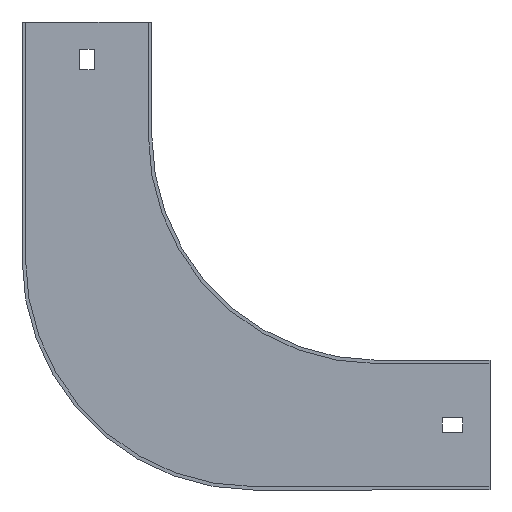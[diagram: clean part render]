
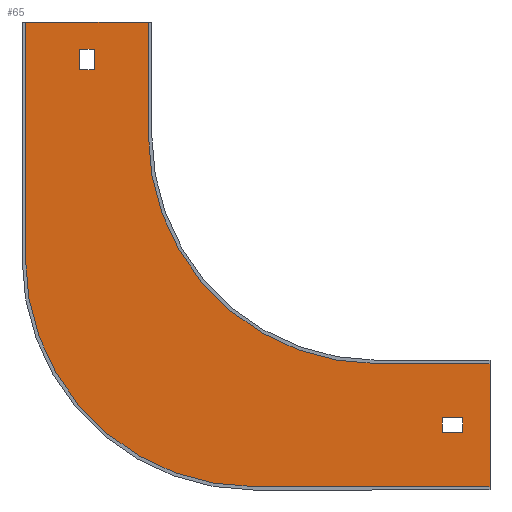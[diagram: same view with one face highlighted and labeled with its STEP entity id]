
A CAD part, front view. The second image highlights one B-rep face of the part: STEP entity #65.
In plain terms, the highlighted planar face has unit normal (0, -1, 0).
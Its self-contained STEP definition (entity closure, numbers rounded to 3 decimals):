
#29 = EDGE_CURVE ( 'NONE', #698, #639, #371, .T. ) ;
#32 = LINE ( 'NONE', #418, #144 ) ;
#33 = VECTOR ( 'NONE', #627, 1000. ) ;
#35 = VECTOR ( 'NONE', #438, 1000. ) ;
#37 = DIRECTION ( 'NONE',  ( 0., 0., 1. ) ) ;
#38 = EDGE_CURVE ( 'NONE', #534, #661, #634, .T. ) ;
#44 = EDGE_LOOP ( 'NONE', ( #72, #859, #710, #341 ) ) ;
#51 = DIRECTION ( 'NONE',  ( 0., 0., 1. ) ) ;
#53 = CIRCLE ( 'NONE', #122, 100. ) ;
#65 = ADVANCED_FACE ( 'NONE', ( #83, #134, #290 ), #668, .T. ) ;
#67 = DIRECTION ( 'NONE',  ( 0., 0., -1. ) ) ;
#68 = VECTOR ( 'NONE', #622, 1000. ) ;
#69 = DIRECTION ( 'NONE',  ( -1., 0., 0. ) ) ;
#72 = ORIENTED_EDGE ( 'NONE', *, *, #580, .F. ) ;
#81 = ORIENTED_EDGE ( 'NONE', *, *, #464, .F. ) ;
#83 = FACE_BOUND ( 'NONE', #44, .T. ) ;
#84 = CARTESIAN_POINT ( 'NONE',  ( 29., -1.5, -130.25 ) ) ;
#88 = CARTESIAN_POINT ( 'NONE',  ( 50., -1.5, -98.5 ) ) ;
#89 = EDGE_CURVE ( 'NONE', #681, #690, #537, .T. ) ;
#94 = ORIENTED_EDGE ( 'NONE', *, *, #398, .F. ) ;
#95 = LINE ( 'NONE', #817, #529 ) ;
#115 = EDGE_CURVE ( 'NONE', #696, #797, #742, .T. ) ;
#122 = AXIS2_PLACEMENT_3D ( 'NONE', #422, #231, #751 ) ;
#123 = CARTESIAN_POINT ( 'NONE',  ( 29., -1.5, 0. ) ) ;
#128 = EDGE_CURVE ( 'NONE', #623, #138, #629, .T. ) ;
#134 = FACE_OUTER_BOUND ( 'NONE', #151, .T. ) ;
#138 = VERTEX_POINT ( 'NONE', #329 ) ;
#139 = VERTEX_POINT ( 'NONE', #789 ) ;
#141 = CARTESIAN_POINT ( 'NONE',  ( 0., -1.5, 0. ) ) ;
#143 = CARTESIAN_POINT ( 'NONE',  ( 0., -1.5, 29. ) ) ;
#144 = VECTOR ( 'NONE', #554, 1000. ) ;
#151 = EDGE_LOOP ( 'NONE', ( #630, #94, #297, #368, #267, #81, #535, #470 ) ) ;
#175 = CARTESIAN_POINT ( 'NONE',  ( 50., -1.5, -154. ) ) ;
#182 = LINE ( 'NONE', #714, #35 ) ;
#186 = CARTESIAN_POINT ( 'NONE',  ( -154., -1.5, -54. ) ) ;
#190 = DIRECTION ( 'NONE',  ( -1., 0., 0. ) ) ;
#192 = DIRECTION ( 'NONE',  ( 0., 0., 1. ) ) ;
#217 = VECTOR ( 'NONE', #219, 1000. ) ;
#219 = DIRECTION ( 'NONE',  ( 0., 0., -1. ) ) ;
#231 = DIRECTION ( 'NONE',  ( 0., 1., 0. ) ) ;
#234 = VERTEX_POINT ( 'NONE', #743 ) ;
#251 = EDGE_CURVE ( 'NONE', #809, #534, #718, .T. ) ;
#262 = CARTESIAN_POINT ( 'NONE',  ( 50., -1.5, -154. ) ) ;
#267 = ORIENTED_EDGE ( 'NONE', *, *, #89, .F. ) ;
#277 = DIRECTION ( 'NONE',  ( 0., -1., 0. ) ) ;
#286 = CARTESIAN_POINT ( 'NONE',  ( 0., -1.5, 38. ) ) ;
#290 = FACE_BOUND ( 'NONE', #738, .T. ) ;
#297 = ORIENTED_EDGE ( 'NONE', *, *, #501, .F. ) ;
#329 = CARTESIAN_POINT ( 'NONE',  ( -123.75, -1.5, 29. ) ) ;
#331 = CARTESIAN_POINT ( 'NONE',  ( 0., -1.5, 0. ) ) ;
#341 = ORIENTED_EDGE ( 'NONE', *, *, #251, .F. ) ;
#347 = CARTESIAN_POINT ( 'NONE',  ( -123.75, -1.5, 0. ) ) ;
#358 = DIRECTION ( 'NONE',  ( 0., 0., -1. ) ) ;
#368 = ORIENTED_EDGE ( 'NONE', *, *, #776, .F. ) ;
#371 = LINE ( 'NONE', #432, #782 ) ;
#372 = ORIENTED_EDGE ( 'NONE', *, *, #128, .T. ) ;
#380 = CARTESIAN_POINT ( 'NONE',  ( 50., -1.5, -100. ) ) ;
#381 = AXIS2_PLACEMENT_3D ( 'NONE', #141, #277, #358 ) ;
#390 = DIRECTION ( 'NONE',  ( 0., 0., -1. ) ) ;
#398 = EDGE_CURVE ( 'NONE', #733, #696, #719, .T. ) ;
#412 = EDGE_CURVE ( 'NONE', #138, #698, #478, .T. ) ;
#418 = CARTESIAN_POINT ( 'NONE',  ( 0., -1.5, -100. ) ) ;
#422 = CARTESIAN_POINT ( 'NONE',  ( -54., -1.5, -54. ) ) ;
#423 = VECTOR ( 'NONE', #190, 1000. ) ;
#432 = CARTESIAN_POINT ( 'NONE',  ( -130.25, -1.5, 0. ) ) ;
#438 = DIRECTION ( 'NONE',  ( 0., 0., -1. ) ) ;
#445 = EDGE_CURVE ( 'NONE', #639, #623, #524, .T. ) ;
#460 = LINE ( 'NONE', #262, #423 ) ;
#464 = EDGE_CURVE ( 'NONE', #139, #681, #32, .T. ) ;
#470 = ORIENTED_EDGE ( 'NONE', *, *, #691, .F. ) ;
#473 = VECTOR ( 'NONE', #390, 1000. ) ;
#478 = LINE ( 'NONE', #143, #740 ) ;
#482 = CARTESIAN_POINT ( 'NONE',  ( 0., -1.5, -130.25 ) ) ;
#490 = DIRECTION ( 'NONE',  ( -1., 0., 0. ) ) ;
#491 = ORIENTED_EDGE ( 'NONE', *, *, #29, .T. ) ;
#501 = EDGE_CURVE ( 'NONE', #234, #733, #53, .T. ) ;
#516 = VECTOR ( 'NONE', #590, 1000. ) ;
#524 = LINE ( 'NONE', #286, #516 ) ;
#526 = VECTOR ( 'NONE', #617, 1000. ) ;
#529 = VECTOR ( 'NONE', #490, 1000. ) ;
#530 = DIRECTION ( 'NONE',  ( 0., -1., 0. ) ) ;
#534 = VERTEX_POINT ( 'NONE', #84 ) ;
#535 = ORIENTED_EDGE ( 'NONE', *, *, #828, .F. ) ;
#537 = LINE ( 'NONE', #88, #526 ) ;
#554 = DIRECTION ( 'NONE',  ( 1., 0., 0. ) ) ;
#556 = VERTEX_POINT ( 'NONE', #571 ) ;
#571 = CARTESIAN_POINT ( 'NONE',  ( -100., -1.5, 0. ) ) ;
#572 = CIRCLE ( 'NONE', #848, 100. ) ;
#580 = EDGE_CURVE ( 'NONE', #822, #809, #95, .T. ) ;
#583 = CARTESIAN_POINT ( 'NONE',  ( -130.25, -1.5, 29. ) ) ;
#590 = DIRECTION ( 'NONE',  ( 1., 0., 0. ) ) ;
#600 = VECTOR ( 'NONE', #192, 1000. ) ;
#617 = DIRECTION ( 'NONE',  ( 0., 0., -1. ) ) ;
#622 = DIRECTION ( 'NONE',  ( 1., 0., 0. ) ) ;
#623 = VERTEX_POINT ( 'NONE', #715 ) ;
#627 = DIRECTION ( 'NONE',  ( 1., 0., 0. ) ) ;
#629 = LINE ( 'NONE', #347, #217 ) ;
#630 = ORIENTED_EDGE ( 'NONE', *, *, #115, .F. ) ;
#634 = LINE ( 'NONE', #482, #33 ) ;
#639 = VERTEX_POINT ( 'NONE', #650 ) ;
#643 = CARTESIAN_POINT ( 'NONE',  ( -154., -1.5, 50. ) ) ;
#650 = CARTESIAN_POINT ( 'NONE',  ( -130.25, -1.5, 38. ) ) ;
#654 = LINE ( 'NONE', #849, #791 ) ;
#656 = CARTESIAN_POINT ( 'NONE',  ( -100., -1.5, 50. ) ) ;
#661 = VERTEX_POINT ( 'NONE', #781 ) ;
#668 = PLANE ( 'NONE',  #381 ) ;
#676 = CARTESIAN_POINT ( 'NONE',  ( 29., -1.5, -123.75 ) ) ;
#681 = VERTEX_POINT ( 'NONE', #380 ) ;
#689 = CARTESIAN_POINT ( 'NONE',  ( -155.5, -1.5, 50. ) ) ;
#690 = VERTEX_POINT ( 'NONE', #175 ) ;
#691 = EDGE_CURVE ( 'NONE', #797, #556, #182, .T. ) ;
#696 = VERTEX_POINT ( 'NONE', #643 ) ;
#698 = VERTEX_POINT ( 'NONE', #583 ) ;
#710 = ORIENTED_EDGE ( 'NONE', *, *, #38, .F. ) ;
#714 = CARTESIAN_POINT ( 'NONE',  ( -100., -1.5, 50. ) ) ;
#715 = CARTESIAN_POINT ( 'NONE',  ( -123.75, -1.5, 38. ) ) ;
#718 = LINE ( 'NONE', #123, #473 ) ;
#719 = LINE ( 'NONE', #737, #600 ) ;
#733 = VERTEX_POINT ( 'NONE', #186 ) ;
#737 = CARTESIAN_POINT ( 'NONE',  ( -154., -1.5, -54. ) ) ;
#738 = EDGE_LOOP ( 'NONE', ( #820, #372, #814, #491 ) ) ;
#740 = VECTOR ( 'NONE', #69, 1000. ) ;
#742 = LINE ( 'NONE', #689, #68 ) ;
#743 = CARTESIAN_POINT ( 'NONE',  ( -54., -1.5, -154. ) ) ;
#751 = DIRECTION ( 'NONE',  ( 0., 0., -1. ) ) ;
#756 = EDGE_CURVE ( 'NONE', #661, #822, #654, .T. ) ;
#776 = EDGE_CURVE ( 'NONE', #690, #234, #460, .T. ) ;
#781 = CARTESIAN_POINT ( 'NONE',  ( 38., -1.5, -130.25 ) ) ;
#782 = VECTOR ( 'NONE', #37, 1000. ) ;
#789 = CARTESIAN_POINT ( 'NONE',  ( 0., -1.5, -100. ) ) ;
#791 = VECTOR ( 'NONE', #51, 1000. ) ;
#797 = VERTEX_POINT ( 'NONE', #656 ) ;
#805 = CARTESIAN_POINT ( 'NONE',  ( 38., -1.5, -123.75 ) ) ;
#809 = VERTEX_POINT ( 'NONE', #676 ) ;
#814 = ORIENTED_EDGE ( 'NONE', *, *, #412, .T. ) ;
#817 = CARTESIAN_POINT ( 'NONE',  ( 0., -1.5, -123.75 ) ) ;
#820 = ORIENTED_EDGE ( 'NONE', *, *, #445, .T. ) ;
#822 = VERTEX_POINT ( 'NONE', #805 ) ;
#828 = EDGE_CURVE ( 'NONE', #556, #139, #572, .T. ) ;
#848 = AXIS2_PLACEMENT_3D ( 'NONE', #331, #530, #67 ) ;
#849 = CARTESIAN_POINT ( 'NONE',  ( 38., -1.5, 0. ) ) ;
#859 = ORIENTED_EDGE ( 'NONE', *, *, #756, .F. ) ;
